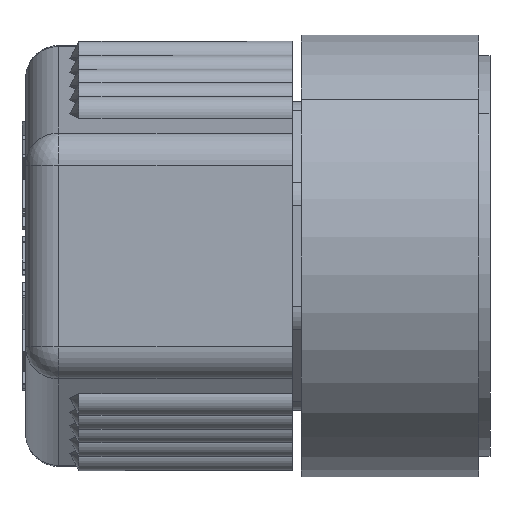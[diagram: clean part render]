
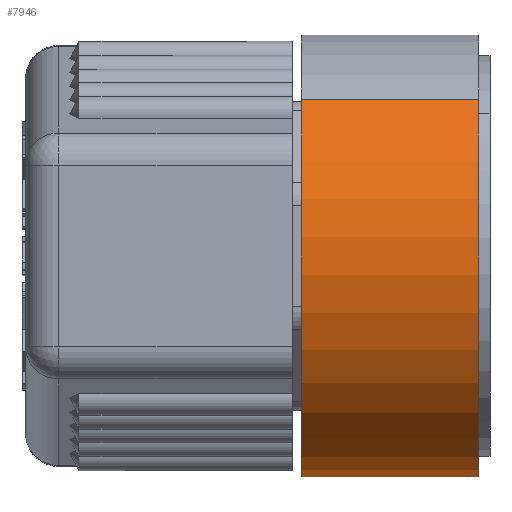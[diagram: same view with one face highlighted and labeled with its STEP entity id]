
A CAD part, left-side view. The second image highlights one B-rep face of the part: STEP entity #7946.
In plain terms, the highlighted cylindrical face has radius 15.812 mm (diameter 31.623 mm), a partial arc.
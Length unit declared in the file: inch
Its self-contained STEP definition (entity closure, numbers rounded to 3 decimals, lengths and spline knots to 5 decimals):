
#1119=DIRECTION('',(0.,-1.,0.));
#1120=VECTOR('',#1119,0.498);
#1121=CARTESIAN_POINT('',(-0.44017,-0.775,0.44017));
#1122=LINE('',#1121,#1120);
#1126=DIRECTION('',(0.,-1.,0.));
#1127=VECTOR('',#1126,0.498);
#1128=CARTESIAN_POINT('',(0.44017,-0.775,-0.44017));
#1129=LINE('',#1128,#1127);
#1133=CARTESIAN_POINT('',(0.,-0.775,0.));
#1134=DIRECTION('',(0.,-1.,0.));
#1135=DIRECTION('',(-0.707,0.,0.707));
#1136=AXIS2_PLACEMENT_3D('',#1133,#1134,#1135);
#1141=CARTESIAN_POINT('',(0.,-1.273,0.));
#1142=DIRECTION('',(0.,-1.,0.));
#1143=DIRECTION('',(-0.707,0.,0.707));
#1144=AXIS2_PLACEMENT_3D('',#1141,#1142,#1143);
#7139=CARTESIAN_POINT('',(-0.44017,-0.775,0.44017));
#7140=CARTESIAN_POINT('',(-0.44017,-1.273,0.44017));
#7141=VERTEX_POINT('',#7139);
#7142=VERTEX_POINT('',#7140);
#7147=CARTESIAN_POINT('',(0.44017,-0.775,-0.44017));
#7148=CARTESIAN_POINT('',(0.44017,-1.273,-0.44017));
#7149=VERTEX_POINT('',#7147);
#7150=VERTEX_POINT('',#7148);
#7934=CARTESIAN_POINT('',(0.,-1.3315,0.));
#7935=DIRECTION('',(0.,1.,0.));
#7936=DIRECTION('',(0.707,0.,-0.707));
#7937=AXIS2_PLACEMENT_3D('',#7934,#7935,#7936);
#7938=CYLINDRICAL_SURFACE('',#7937,0.6225);
#7939=ORIENTED_EDGE('',*,*,#7924,.T.);
#7941=ORIENTED_EDGE('',*,*,#7940,.T.);
#7942=ORIENTED_EDGE('',*,*,#7927,.F.);
#7943=ORIENTED_EDGE('',*,*,#7881,.F.);
#7944=EDGE_LOOP('',(#7939,#7941,#7942,#7943));
#7945=FACE_OUTER_BOUND('',#7944,.F.);
#7946=ADVANCED_FACE('',(#7945),#7938,.T.);
#1137=CIRCLE('',#1136,0.6225);
#1145=CIRCLE('',#1144,0.6225);
#7881=EDGE_CURVE('',#7141,#7149,#1137,.T.);
#7924=EDGE_CURVE('',#7141,#7142,#1122,.T.);
#7927=EDGE_CURVE('',#7149,#7150,#1129,.T.);
#7940=EDGE_CURVE('',#7142,#7150,#1145,.T.);
